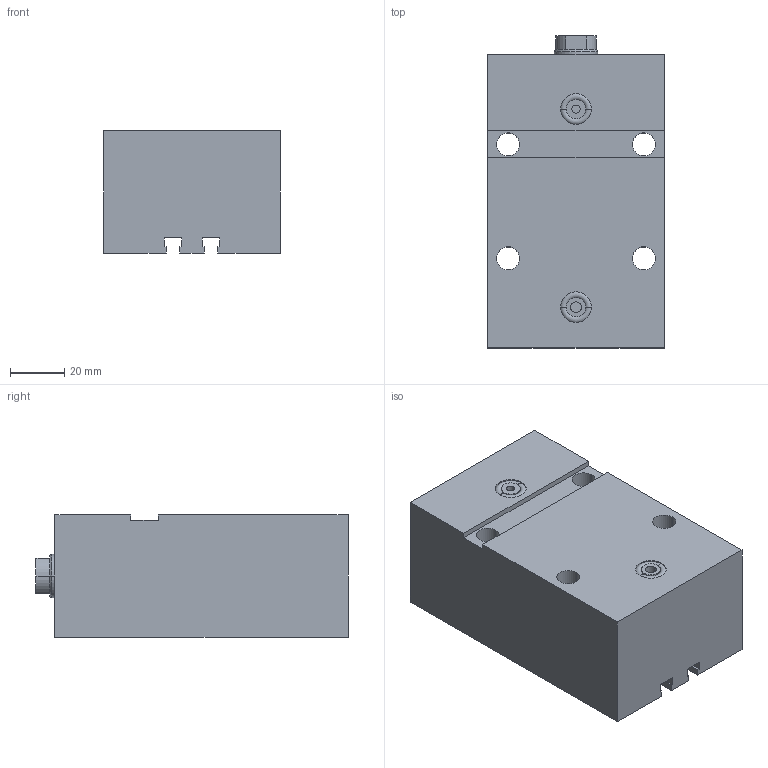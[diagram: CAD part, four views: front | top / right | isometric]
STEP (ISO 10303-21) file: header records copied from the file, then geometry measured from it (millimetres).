
FILE_DESCRIPTION (( 'STEP AP203' ), '1' );
FILE_NAME ('GERMA_Blockzylinder_704-025-050.STEP', '2016-08-01T17:05:29', ( '' ), ( '' ), 'SwSTEP 2.0', 'SolidWorks 2015', '' );
FILE_SCHEMA (( 'CONFIG_CONTROL_DESIGN' ));
Length unit declared in the file: millimetre
Products named in the file (3): GH-700-025_GH-704-025-050; GERMA_Blockzylinder_704-025-050; Kolben_MT 70x-025_Kolben_MT DU.25-Hub50-IG
Assembly tree (2 placements, depth 2):
  GERMA_Blockzylinder_704-025-050
    GH-700-025_GH-704-025-050
    Kolben_MT 70x-025_Kolben_MT DU.25-Hub50-IG
Bounding box: 65 x 115 x 45 mm (x, y, z)
Volume: 282856.8 mm3; surface area: 51389.2 mm2
Topology: 2 solids, 2 shells, 104 faces, 242 edges, 150 vertices
Faces by surface type: cylinder 43, plane 43, cone 14, torus 4
Entity records: 3246 total; most frequent: DIRECTION 555, CARTESIAN_POINT 495, ORIENTED_EDGE 472, EDGE_CURVE 236, AXIS2_PLACEMENT_3D 210, VERTEX_POINT 150, LINE 135, VECTOR 135
